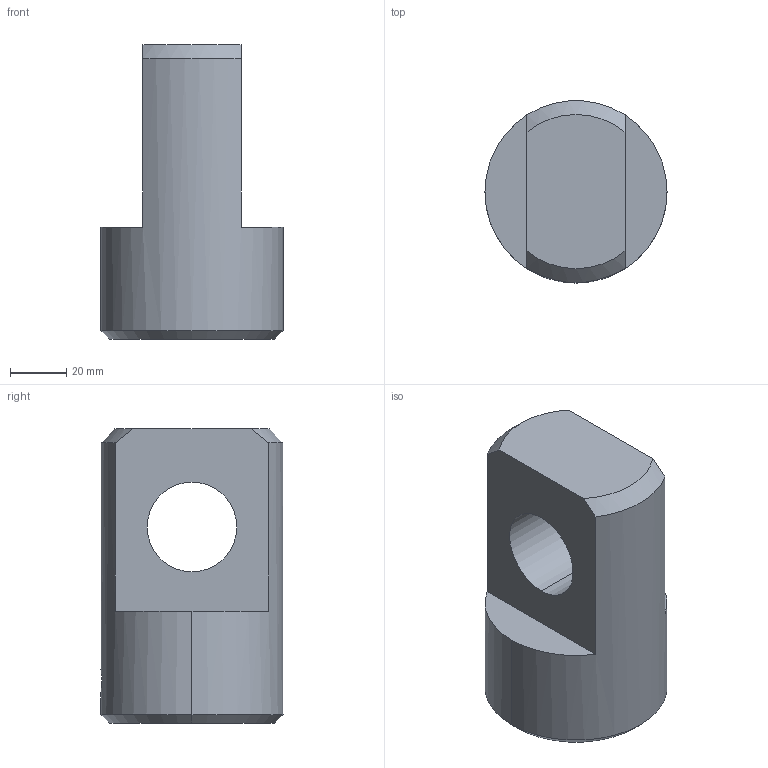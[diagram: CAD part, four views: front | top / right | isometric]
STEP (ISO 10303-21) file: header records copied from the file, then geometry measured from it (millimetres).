
FILE_DESCRIPTION (( 'STEP AP203' ), '1' );
FILE_NAME ('MJ4-GK.STEP', '2024-01-15T15:20:31', ( '' ), ( '' ), 'SwSTEP 2.0', 'SolidWorks 2022', '' );
FILE_SCHEMA (( 'CONFIG_CONTROL_DESIGN' ));
Length unit declared in the file: millimetre
Products named in the file (1): MJ4-GK
Bounding box: 65 x 65 x 105 mm (x, y, z)
Volume: 220147.8 mm3; surface area: 31617.7 mm2
Topology: 1 solids, 1 shells, 20 faces, 50 edges, 31 vertices
Faces by surface type: cylinder 8, cone 6, plane 6
Entity records: 825 total; most frequent: CARTESIAN_POINT 272, DIRECTION 102, ORIENTED_EDGE 96, EDGE_CURVE 48, AXIS2_PLACEMENT_3D 41, VERTEX_POINT 31, EDGE_LOOP 25, VECTOR 20
